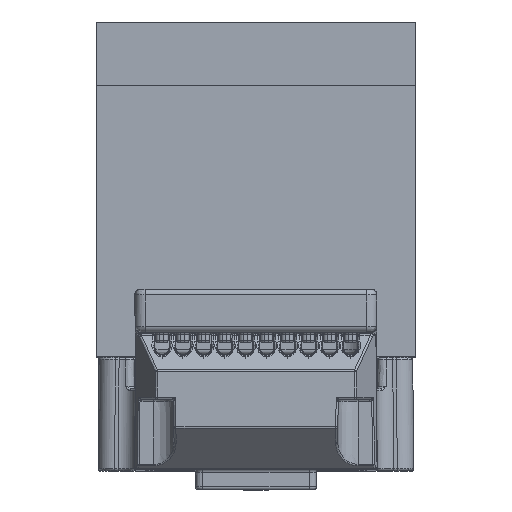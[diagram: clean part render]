
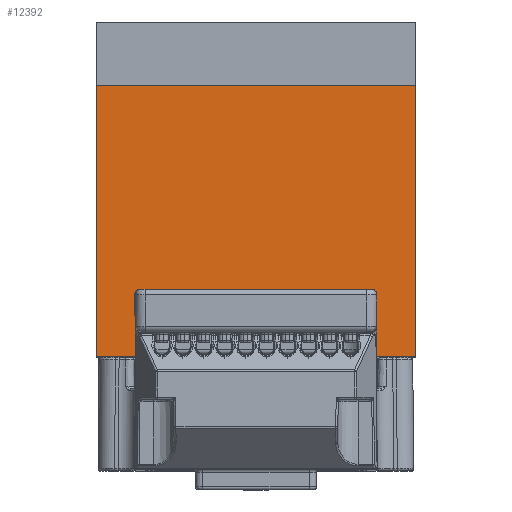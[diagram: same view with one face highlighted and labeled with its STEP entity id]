
A CAD part, top view. The second image highlights one B-rep face of the part: STEP entity #12392.
In plain terms, the highlighted planar face has unit normal (0, 0, 1) as drawn and (0, 1, 0) by its records, which use the part's own axes.
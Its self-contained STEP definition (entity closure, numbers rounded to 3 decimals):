
#1075 = ORIENTED_EDGE ( 'NONE', *, *, #71902, .T. ) ;
#5361 = VECTOR ( 'NONE', #49915, 1000. ) ;
#7402 = PLANE ( 'NONE',  #40690 ) ;
#11157 = ORIENTED_EDGE ( 'NONE', *, *, #27546, .F. ) ;
#11757 = CARTESIAN_POINT ( 'NONE',  ( 7.75, 16.2, 13.2 ) ) ;
#12392 = ADVANCED_FACE ( 'NONE', ( #62461 ), #7402, .F. ) ;
#18437 = VECTOR ( 'NONE', #60240, 1000. ) ;
#22728 = ORIENTED_EDGE ( 'NONE', *, *, #73795, .T. ) ;
#25169 = DIRECTION ( 'NONE',  ( 0., 0., -1. ) ) ;
#26725 = DIRECTION ( 'NONE',  ( 0., 0., -1. ) ) ;
#27546 = EDGE_CURVE ( 'NONE', #79737, #54958, #57192, .T. ) ;
#30384 = CARTESIAN_POINT ( 'NONE',  ( -7.75, 16.2, 13.2 ) ) ;
#32020 = CARTESIAN_POINT ( 'NONE',  ( -7.75, 16.2, 13.2 ) ) ;
#38832 = VERTEX_POINT ( 'NONE', #11757 ) ;
#40690 = AXIS2_PLACEMENT_3D ( 'NONE', #62625, #45106, #25169 ) ;
#45106 = DIRECTION ( 'NONE',  ( 0., -1., 0. ) ) ;
#49766 = LINE ( 'NONE', #71186, #18437 ) ;
#49915 = DIRECTION ( 'NONE',  ( 0., 0., -1. ) ) ;
#52389 = CARTESIAN_POINT ( 'NONE',  ( 7.75, 16.2, 16.3 ) ) ;
#54194 = CARTESIAN_POINT ( 'NONE',  ( -7.75, 16.2, 0. ) ) ;
#54202 = VECTOR ( 'NONE', #57110, 1000. ) ;
#54958 = VERTEX_POINT ( 'NONE', #54194 ) ;
#56368 = VECTOR ( 'NONE', #26725, 1000. ) ;
#57110 = DIRECTION ( 'NONE',  ( -1., 0., 0. ) ) ;
#57192 = LINE ( 'NONE', #62512, #5361 ) ;
#60240 = DIRECTION ( 'NONE',  ( -1., 0., 0. ) ) ;
#62461 = FACE_OUTER_BOUND ( 'NONE', #80813, .T. ) ;
#62512 = CARTESIAN_POINT ( 'NONE',  ( -7.75, 16.2, 16.3 ) ) ;
#62625 = CARTESIAN_POINT ( 'NONE',  ( -7.75, 16.2, 16.3 ) ) ;
#63681 = CARTESIAN_POINT ( 'NONE',  ( 7.75, 16.2, 0. ) ) ;
#64966 = LINE ( 'NONE', #32020, #54202 ) ;
#68481 = EDGE_CURVE ( 'NONE', #38832, #79737, #64966, .T. ) ;
#71186 = CARTESIAN_POINT ( 'NONE',  ( -7.75, 16.2, 0. ) ) ;
#71902 = EDGE_CURVE ( 'NONE', #72454, #54958, #49766, .T. ) ;
#72454 = VERTEX_POINT ( 'NONE', #63681 ) ;
#72978 = LINE ( 'NONE', #52389, #56368 ) ;
#73795 = EDGE_CURVE ( 'NONE', #38832, #72454, #72978, .T. ) ;
#75148 = ORIENTED_EDGE ( 'NONE', *, *, #68481, .F. ) ;
#79737 = VERTEX_POINT ( 'NONE', #30384 ) ;
#80813 = EDGE_LOOP ( 'NONE', ( #11157, #75148, #22728, #1075 ) ) ;
